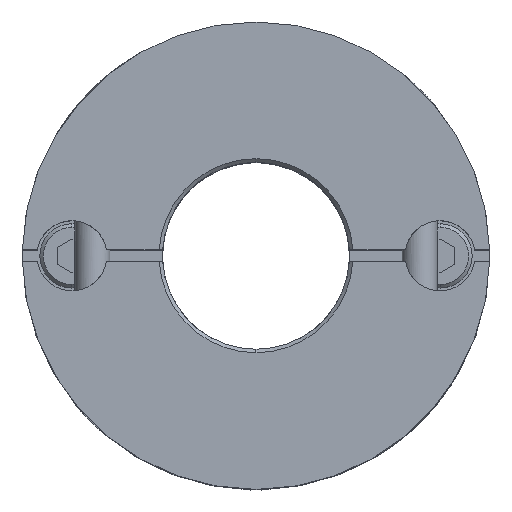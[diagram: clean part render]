
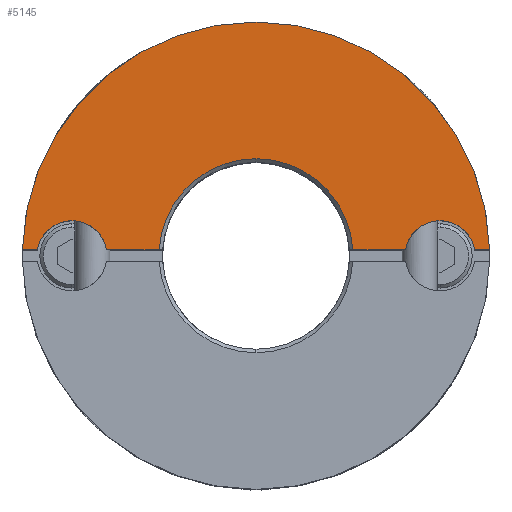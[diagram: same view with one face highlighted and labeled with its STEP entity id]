
A CAD part, top view. The second image highlights one B-rep face of the part: STEP entity #5145.
In plain terms, the highlighted planar face has unit normal (0, 0, 1).
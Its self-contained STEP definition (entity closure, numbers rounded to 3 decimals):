
#1985=CARTESIAN_POINT('',(0.,20.0,15.6));
#1986=VERTEX_POINT('',#1985);
#2070=CARTESIAN_POINT('',(-19.994,0.5,15.6));
#2071=VERTEX_POINT('',#2070);
#2078=CARTESIAN_POINT('',(0.,0.,15.6));
#2079=DIRECTION('',(0.0,0.0,-1.0));
#2080=DIRECTION('',(0.0,1.0,0.0));
#2081=AXIS2_PLACEMENT_3D('',#2078,#2079,#2080);
#2082=CIRCLE('',#2081,20.0);
#2083=EDGE_CURVE('',#2071,#1986,#2082,.T.);
#2369=CARTESIAN_POINT('',(0.,8.3,15.6));
#2370=VERTEX_POINT('',#2369);
#2377=CARTESIAN_POINT('',(-8.285,0.5,15.6));
#2378=VERTEX_POINT('',#2377);
#2379=CARTESIAN_POINT('',(0.,0.,15.6));
#2380=DIRECTION('',(0.0,0.0,1.0));
#2381=DIRECTION('',(0.0,-1.0,0.0));
#2382=AXIS2_PLACEMENT_3D('',#2379,#2380,#2381);
#2383=CIRCLE('',#2382,8.3);
#2384=EDGE_CURVE('',#2370,#2378,#2383,.T.);
#2447=CARTESIAN_POINT('',(15.75,3.,15.6));
#2448=VERTEX_POINT('',#2447);
#2457=CARTESIAN_POINT('',(12.792,0.5,15.6));
#2458=VERTEX_POINT('',#2457);
#2459=CARTESIAN_POINT('',(15.75,0.,15.6));
#2460=DIRECTION('',(0.0,0.0,-1.0));
#2461=DIRECTION('',(0.0,1.0,0.0));
#2462=AXIS2_PLACEMENT_3D('',#2459,#2460,#2461);
#2463=CIRCLE('',#2462,3.0);
#2464=EDGE_CURVE('',#2458,#2448,#2463,.T.);
#2655=CARTESIAN_POINT('',(-15.75,3.,15.6));
#2656=VERTEX_POINT('',#2655);
#2665=CARTESIAN_POINT('',(-18.708,0.5,15.6));
#2666=VERTEX_POINT('',#2665);
#2667=CARTESIAN_POINT('',(-15.75,0.,15.6));
#2668=DIRECTION('',(0.0,0.0,-1.0));
#2669=DIRECTION('',(0.0,1.0,0.0));
#2670=AXIS2_PLACEMENT_3D('',#2667,#2668,#2669);
#2671=CIRCLE('',#2670,3.0);
#2672=EDGE_CURVE('',#2666,#2656,#2671,.T.);
#4047=CARTESIAN_POINT('',(8.285,0.5,15.6));
#4048=VERTEX_POINT('',#4047);
#4049=CARTESIAN_POINT('',(8.285,0.5,15.6));
#4050=DIRECTION('',(1.0,0.0,0.0));
#4051=VECTOR('',#4050,4.507);
#4052=LINE('',#4049,#4051);
#4053=EDGE_CURVE('',#4048,#2458,#4052,.T.);
#4337=CARTESIAN_POINT('',(-12.792,0.5,15.6));
#4338=VERTEX_POINT('',#4337);
#4339=CARTESIAN_POINT('',(-12.792,0.5,15.6));
#4340=DIRECTION('',(1.0,0.0,0.0));
#4341=VECTOR('',#4340,4.507);
#4342=LINE('',#4339,#4341);
#4343=EDGE_CURVE('',#4338,#2378,#4342,.T.);
#4966=CARTESIAN_POINT('',(-15.75,0.,15.6));
#4967=DIRECTION('',(0.0,0.0,-1.0));
#4968=DIRECTION('',(0.0,1.0,0.0));
#4969=AXIS2_PLACEMENT_3D('',#4966,#4967,#4968);
#4970=CIRCLE('',#4969,3.0);
#4971=EDGE_CURVE('',#2656,#4338,#4970,.T.);
#5024=CARTESIAN_POINT('',(18.708,0.5,15.6));
#5025=VERTEX_POINT('',#5024);
#5032=CARTESIAN_POINT('',(15.75,0.,15.6));
#5033=DIRECTION('',(0.0,0.0,-1.0));
#5034=DIRECTION('',(0.0,1.0,0.0));
#5035=AXIS2_PLACEMENT_3D('',#5032,#5033,#5034);
#5036=CIRCLE('',#5035,3.0);
#5037=EDGE_CURVE('',#2448,#5025,#5036,.T.);
#5048=CARTESIAN_POINT('',(-19.994,0.5,15.6));
#5049=DIRECTION('',(1.0,0.0,0.0));
#5050=VECTOR('',#5049,1.286);
#5051=LINE('',#5048,#5050);
#5052=EDGE_CURVE('',#2071,#2666,#5051,.T.);
#5107=CARTESIAN_POINT('',(0.,1.818,15.6));
#5108=DIRECTION('',(0.0,0.0,1.0));
#5109=DIRECTION('',(0.0,1.0,0.0));
#5110=AXIS2_PLACEMENT_3D('',#5107,#5108,#5109);
#5111=PLANE('',#5110);
#5112=ORIENTED_EDGE('',*,*,#2672,.T.);
#5113=ORIENTED_EDGE('',*,*,#4971,.T.);
#5114=ORIENTED_EDGE('',*,*,#4343,.T.);
#5115=ORIENTED_EDGE('',*,*,#2384,.F.);
#5116=CARTESIAN_POINT('',(0.,0.,15.6));
#5117=DIRECTION('',(0.0,0.0,1.0));
#5118=DIRECTION('',(0.0,-1.0,0.0));
#5119=AXIS2_PLACEMENT_3D('',#5116,#5117,#5118);
#5120=CIRCLE('',#5119,8.3);
#5121=EDGE_CURVE('',#4048,#2370,#5120,.T.);
#5122=ORIENTED_EDGE('',*,*,#5121,.F.);
#5123=ORIENTED_EDGE('',*,*,#4053,.T.);
#5124=ORIENTED_EDGE('',*,*,#2464,.T.);
#5125=ORIENTED_EDGE('',*,*,#5037,.T.);
#5126=CARTESIAN_POINT('',(19.994,0.5,15.6));
#5127=VERTEX_POINT('',#5126);
#5128=CARTESIAN_POINT('',(18.708,0.5,15.6));
#5129=DIRECTION('',(1.0,0.0,0.0));
#5130=VECTOR('',#5129,1.286);
#5131=LINE('',#5128,#5130);
#5132=EDGE_CURVE('',#5025,#5127,#5131,.T.);
#5133=ORIENTED_EDGE('',*,*,#5132,.T.);
#5134=CARTESIAN_POINT('',(0.,0.,15.6));
#5135=DIRECTION('',(0.0,0.0,-1.0));
#5136=DIRECTION('',(0.0,1.0,0.0));
#5137=AXIS2_PLACEMENT_3D('',#5134,#5135,#5136);
#5138=CIRCLE('',#5137,20.0);
#5139=EDGE_CURVE('',#1986,#5127,#5138,.T.);
#5140=ORIENTED_EDGE('',*,*,#5139,.F.);
#5141=ORIENTED_EDGE('',*,*,#2083,.F.);
#5142=ORIENTED_EDGE('',*,*,#5052,.T.);
#5143=EDGE_LOOP('',(#5112,#5113,#5114,#5115,#5122,#5123,#5124,#5125,#5133,#5140,#5141,#5142));
#5144=FACE_OUTER_BOUND('',#5143,.T.);
#5145=ADVANCED_FACE('',(#5144),#5111,.T.);
